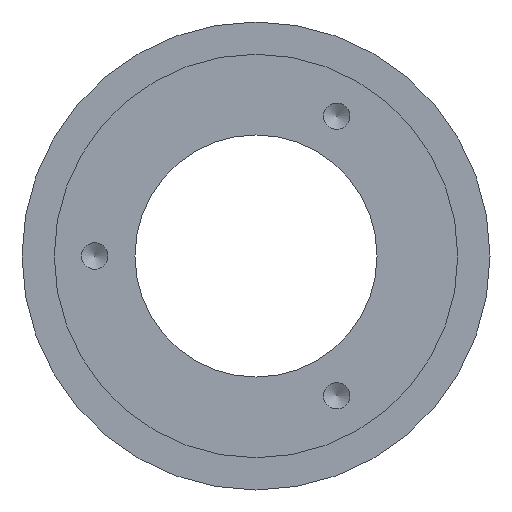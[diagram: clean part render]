
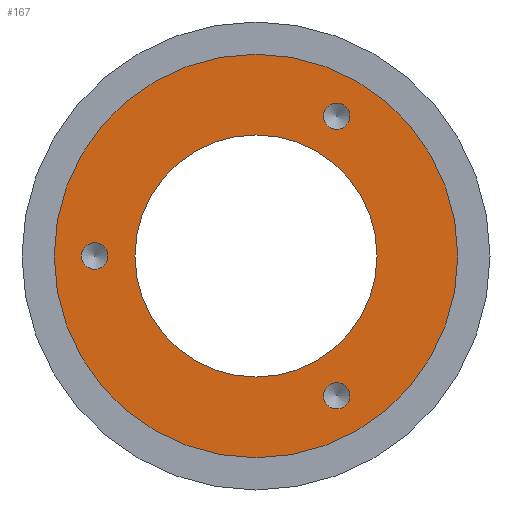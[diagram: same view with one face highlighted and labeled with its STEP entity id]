
A CAD part, front view. The second image highlights one B-rep face of the part: STEP entity #167.
In plain terms, the highlighted planar face has unit normal (0, -1, 0).
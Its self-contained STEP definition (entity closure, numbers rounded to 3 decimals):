
#20=PLANE('',#197);
#31=FACE_BOUND('',#72,.T.);
#32=FACE_BOUND('',#73,.T.);
#33=FACE_BOUND('',#74,.T.);
#34=FACE_BOUND('',#75,.T.);
#48=FACE_OUTER_BOUND('',#71,.T.);
#71=EDGE_LOOP('',(#141));
#72=EDGE_LOOP('',(#142));
#73=EDGE_LOOP('',(#143));
#74=EDGE_LOOP('',(#144));
#75=EDGE_LOOP('',(#145));
#84=CIRCLE('',#183,2.459);
#86=CIRCLE('',#187,2.459);
#88=CIRCLE('',#191,2.459);
#89=CIRCLE('',#193,22.5);
#91=CIRCLE('',#196,37.5);
#98=VERTEX_POINT('',#276);
#100=VERTEX_POINT('',#282);
#102=VERTEX_POINT('',#288);
#103=VERTEX_POINT('',#291);
#105=VERTEX_POINT('',#296);
#112=EDGE_CURVE('',#98,#98,#84,.T.);
#114=EDGE_CURVE('',#100,#100,#86,.T.);
#116=EDGE_CURVE('',#102,#102,#88,.T.);
#117=EDGE_CURVE('',#103,#103,#89,.T.);
#119=EDGE_CURVE('',#105,#105,#91,.T.);
#141=ORIENTED_EDGE('',*,*,#119,.T.);
#142=ORIENTED_EDGE('',*,*,#112,.T.);
#143=ORIENTED_EDGE('',*,*,#114,.T.);
#144=ORIENTED_EDGE('',*,*,#116,.T.);
#145=ORIENTED_EDGE('',*,*,#117,.T.);
#167=ADVANCED_FACE('',(#48,#31,#32,#33,#34),#20,.F.);
#183=AXIS2_PLACEMENT_3D('',#277,#225,#226);
#187=AXIS2_PLACEMENT_3D('',#283,#233,#234);
#191=AXIS2_PLACEMENT_3D('',#289,#241,#242);
#193=AXIS2_PLACEMENT_3D('',#292,#245,#246);
#196=AXIS2_PLACEMENT_3D('',#297,#251,#252);
#197=AXIS2_PLACEMENT_3D('',#298,#253,#254);
#225=DIRECTION('center_axis',(0.,1.,0.));
#226=DIRECTION('ref_axis',(-0.5,0.,-0.866));
#233=DIRECTION('center_axis',(0.,1.,0.));
#234=DIRECTION('ref_axis',(-0.5,0.,0.866));
#241=DIRECTION('center_axis',(0.,1.,0.));
#242=DIRECTION('ref_axis',(1.,0.,0.));
#245=DIRECTION('center_axis',(0.,1.,0.));
#246=DIRECTION('ref_axis',(-1.,0.,0.));
#251=DIRECTION('center_axis',(0.,-1.,0.));
#252=DIRECTION('ref_axis',(1.,0.,0.));
#253=DIRECTION('center_axis',(0.,1.,0.));
#254=DIRECTION('ref_axis',(0.,0.,1.));
#276=CARTESIAN_POINT('',(13.771,0.,23.852));
#277=CARTESIAN_POINT('Origin',(15.,0.,25.981));
#282=CARTESIAN_POINT('',(13.771,0.,-23.852));
#283=CARTESIAN_POINT('Origin',(15.,0.,-25.981));
#288=CARTESIAN_POINT('',(-27.542,0.,0.));
#289=CARTESIAN_POINT('Origin',(-30.,0.,0.));
#291=CARTESIAN_POINT('',(22.5,0.,0.));
#292=CARTESIAN_POINT('Origin',(0.,0.,0.));
#296=CARTESIAN_POINT('',(-37.5,0.,0.));
#297=CARTESIAN_POINT('Origin',(0.,0.,0.));
#298=CARTESIAN_POINT('Origin',(0.,0.,0.));
